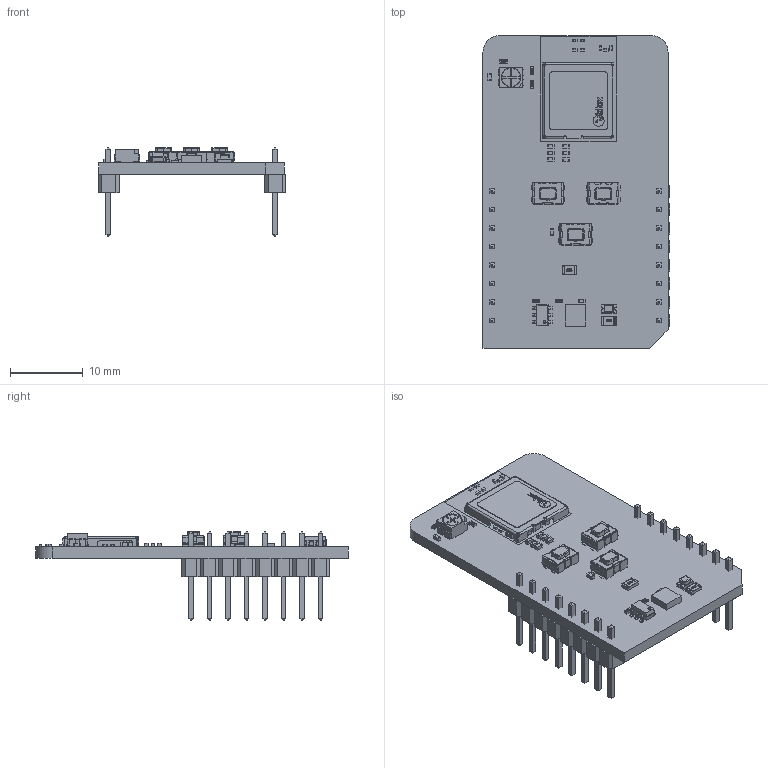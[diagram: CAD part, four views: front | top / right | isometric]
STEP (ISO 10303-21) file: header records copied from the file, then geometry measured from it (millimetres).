
FILE_DESCRIPTION(('Open CASCADE Model'),'2;1');
FILE_NAME('Open CASCADE Shape Model','2025-11-27T11:19:20',('Author'),( 'Open CASCADE'),'Open CASCADE STEP processor 6.8','Open CASCADE 6.8' ,'Unknown');
FILE_SCHEMA(('AUTOMOTIVE_DESIGN { 1 0 10303 214 1 1 1 1 }'));
Length unit declared in the file: millimetre
Products named in the file (130): PCB; Board; C7; User_Library-SMD_CAPACITOR0402; C6; MBD1; Header_1x8; Free-Models; 1240637040; User_Library-PinHeaderX5-1_PinHeaderX5_Body_1; User_Library-PinHeaderX5-1_PinHeaderX5_Pins_1; C2; C9; JP2; User_Library-R_0805; LD2; PLCC4RGBCT-CA_LED_SMD_RGB; R5; User_Library-R_0402; R6; R7; T1; User_Library-Switch-CK-KMR2; User_Library-Switch-CK-KMR2_Button; User_Library-Switch-CK-KMR2_Boitier; User_Library-Switch-CK-KMR2_Tole; User_Library-Switch-CK-KMR2_Pads; T2; T3; U3; NORA-W3x6; Open_CASCADE_STEP_translator_6.8_2.1.1; E1; label_with_logo_8x8; label_8x8; logo_full_4mm; logo_x_4mm; logo_o_4mm; logo_l_4mm; logo_b_4mm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
Assembly tree (323 placements, depth 7):
  PCB
    Board
    C7
      User_Library-SMD_CAPACITOR0402
    C6
      User_Library-SMD_CAPACITOR0402
    MBD1
      Header_1x8  x2
        PCB
          Free-Models
            1240637040  x2
              User_Library-PinHeaderX5-1_PinHeaderX5_Body_1
              User_Library-PinHeaderX5-1_PinHeaderX5_Pins_1
    C2
      User_Library-SMD_CAPACITOR0402
    C9
      User_Library-SMD_CAPACITOR0402
    JP2
      User_Library-R_0805
    LD2
      PLCC4RGBCT-CA_LED_SMD_RGB
    R5
      User_Library-R_0402
    R6
      User_Library-R_0402
    R7
      User_Library-R_0402
    T1
      User_Library-Switch-CK-KMR2
        User_Library-Switch-CK-KMR2_Button
        User_Library-Switch-CK-KMR2_Boitier
        User_Library-Switch-CK-KMR2_Tole
        User_Library-Switch-CK-KMR2_Pads
    T2
      User_Library-Switch-CK-KMR2
        User_Library-Switch-CK-KMR2_Button
        User_Library-Switch-CK-KMR2_Boitier
        User_Library-Switch-CK-KMR2_Tole
        User_Library-Switch-CK-KMR2_Pads
    T3
      User_Library-Switch-CK-KMR2
        User_Library-Switch-CK-KMR2_Button
        User_Library-Switch-CK-KMR2_Boitier
        User_Library-Switch-CK-KMR2_Tole
        User_Library-Switch-CK-KMR2_Pads
    U3
      NORA-W3x6
        Board
          Open_CASCADE_STEP_translator_6.8_2.1.1
        E1
          label_with_logo_8x8
            label_8x8
            logo_full_4mm
              logo_x_4mm
              logo_o_4mm
              logo_l_4mm
              logo_b_4mm
              logo_u_4mm
          NORA_shield_type_3_UBXH04-0000764
        R2
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Bounding box: 25.78 x 42.93 x 12.21 mm (x, y, z)
Volume: 2427.5 mm3; surface area: 5135.8 mm2
Topology: 279 solids, 279 shells, 5257 faces, 13486 edges, 8772 vertices
Faces by surface type: plane 4494, cylinder 364, bspline 303, sphere 78, cone 18
Entity records: 47614 total; most frequent: CARTESIAN_POINT 11770, ORIENTED_EDGE 5826, DIRECTION 5574, EDGE_CURVE 2913, LINE 2290, VECTOR 2290, VERTEX_POINT 1886, AXIS2_PLACEMENT_3D 1642
